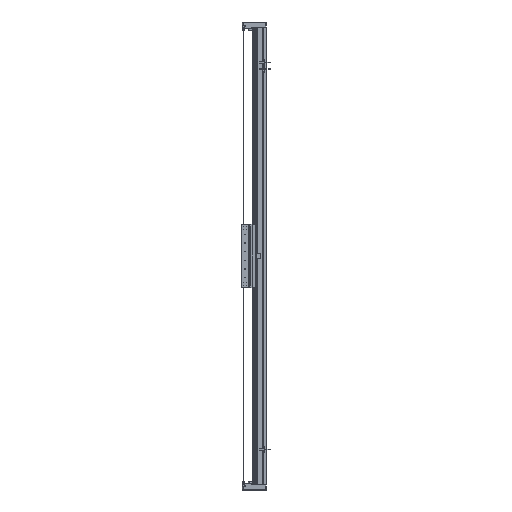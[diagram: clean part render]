
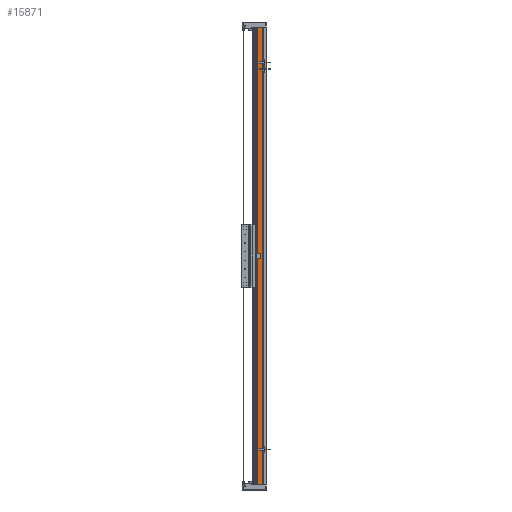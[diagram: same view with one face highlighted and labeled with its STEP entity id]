
A CAD part, left-side view. The second image highlights one B-rep face of the part: STEP entity #15871.
In plain terms, the highlighted planar face has unit normal (-1, 0, 0).
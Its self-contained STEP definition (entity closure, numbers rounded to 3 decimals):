
#2666 = LINE ( 'NONE', #34256, #48893 ) ;
#4906 = LINE ( 'NONE', #71668, #13201 ) ;
#9787 = VECTOR ( 'NONE', #89485, 1000. ) ;
#11669 = DIRECTION ( 'NONE',  ( 0., 0., -1. ) ) ;
#12680 = CARTESIAN_POINT ( 'NONE',  ( -82.5, 36.95, 900. ) ) ;
#13201 = VECTOR ( 'NONE', #109774, 1000. ) ;
#13959 = LINE ( 'NONE', #72589, #9787 ) ;
#15209 = VERTEX_POINT ( 'NONE', #54734 ) ;
#15871 = ADVANCED_FACE ( 'NONE', ( #20800 ), #70057, .F. ) ;
#18608 = EDGE_CURVE ( 'NONE', #81783, #15209, #4906, .T. ) ;
#18739 = LINE ( 'NONE', #37435, #57476 ) ;
#20800 = FACE_OUTER_BOUND ( 'NONE', #78892, .T. ) ;
#21230 = ORIENTED_EDGE ( 'NONE', *, *, #74593, .F. ) ;
#22891 = AXIS2_PLACEMENT_3D ( 'NONE', #12680, #108176, #88197 ) ;
#33377 = EDGE_CURVE ( 'NONE', #87062, #81783, #13959, .T. ) ;
#34256 = CARTESIAN_POINT ( 'NONE',  ( -82.5, 36.95, 900. ) ) ;
#37435 = CARTESIAN_POINT ( 'NONE',  ( -82.5, 14.45, 900. ) ) ;
#43866 = EDGE_CURVE ( 'NONE', #87062, #53854, #2666, .T. ) ;
#48893 = VECTOR ( 'NONE', #101728, 1000. ) ;
#53854 = VERTEX_POINT ( 'NONE', #72261 ) ;
#54734 = CARTESIAN_POINT ( 'NONE',  ( -82.5, 14.45, -900. ) ) ;
#57476 = VECTOR ( 'NONE', #11669, 1000. ) ;
#57876 = ORIENTED_EDGE ( 'NONE', *, *, #18608, .T. ) ;
#63999 = CARTESIAN_POINT ( 'NONE',  ( -82.5, 36.95, 900. ) ) ;
#70057 = PLANE ( 'NONE',  #22891 ) ;
#71668 = CARTESIAN_POINT ( 'NONE',  ( -82.5, 36.95, -900. ) ) ;
#72261 = CARTESIAN_POINT ( 'NONE',  ( -82.5, 14.45, 900. ) ) ;
#72589 = CARTESIAN_POINT ( 'NONE',  ( -82.5, 36.95, 900. ) ) ;
#74452 = CARTESIAN_POINT ( 'NONE',  ( -82.5, 36.95, -900. ) ) ;
#74593 = EDGE_CURVE ( 'NONE', #53854, #15209, #18739, .T. ) ;
#78892 = EDGE_LOOP ( 'NONE', ( #57876, #21230, #96584, #121992 ) ) ;
#81783 = VERTEX_POINT ( 'NONE', #74452 ) ;
#87062 = VERTEX_POINT ( 'NONE', #63999 ) ;
#88197 = DIRECTION ( 'NONE',  ( 0., 1., 0. ) ) ;
#89485 = DIRECTION ( 'NONE',  ( 0., 0., -1. ) ) ;
#96584 = ORIENTED_EDGE ( 'NONE', *, *, #43866, .F. ) ;
#101728 = DIRECTION ( 'NONE',  ( 0., -1., 0. ) ) ;
#108176 = DIRECTION ( 'NONE',  ( 1., 0., 0. ) ) ;
#109774 = DIRECTION ( 'NONE',  ( 0., -1., 0. ) ) ;
#121992 = ORIENTED_EDGE ( 'NONE', *, *, #33377, .T. ) ;
